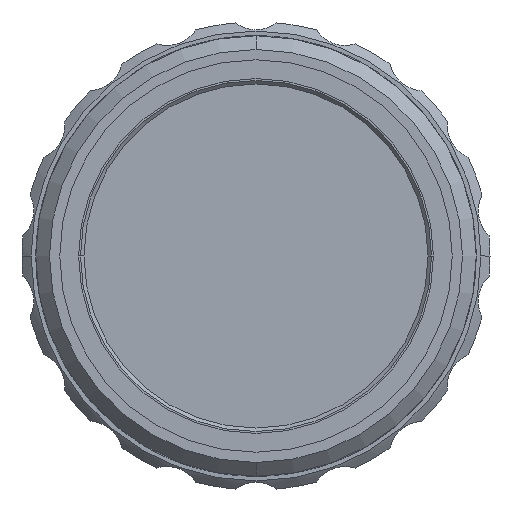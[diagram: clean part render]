
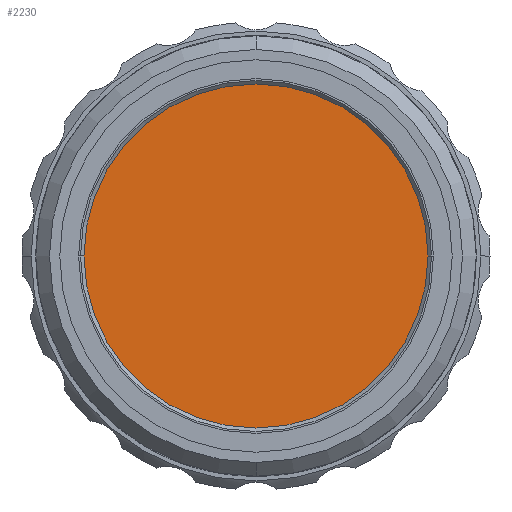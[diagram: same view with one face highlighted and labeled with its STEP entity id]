
A CAD part, front view. The second image highlights one B-rep face of the part: STEP entity #2230.
In plain terms, the highlighted planar face has unit normal (0, -1, 0).
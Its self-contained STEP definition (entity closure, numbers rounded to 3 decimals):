
#129 = CIRCLE ( 'NONE', #11376, 12.5 ) ;
#491 = DIRECTION ( 'NONE',  ( 0., -1., 0. ) ) ;
#1617 = CARTESIAN_POINT ( 'NONE',  ( 0., -53.614, 0. ) ) ;
#1807 = ORIENTED_EDGE ( 'NONE', *, *, #3451, .T. ) ;
#2201 = DIRECTION ( 'NONE',  ( 0., 1., 0. ) ) ;
#2230 = ADVANCED_FACE ( 'NONE', ( #9356 ), #14100, .F. ) ;
#2610 = DIRECTION ( 'NONE',  ( 1., 0., 0. ) ) ;
#2659 = DIRECTION ( 'NONE',  ( 0., -1., 0. ) ) ;
#3243 = CARTESIAN_POINT ( 'NONE',  ( 0., -53.614, 0. ) ) ;
#3451 = EDGE_CURVE ( 'NONE', #4184, #8243, #129, .T. ) ;
#4184 = VERTEX_POINT ( 'NONE', #5961 ) ;
#5602 = CARTESIAN_POINT ( 'NONE',  ( -12.5, -53.614, 0. ) ) ;
#5961 = CARTESIAN_POINT ( 'NONE',  ( 12.5, -53.614, 0. ) ) ;
#6431 = AXIS2_PLACEMENT_3D ( 'NONE', #3243, #2201, #10797 ) ;
#7464 = AXIS2_PLACEMENT_3D ( 'NONE', #1617, #2659, #2610 ) ;
#7570 = EDGE_CURVE ( 'NONE', #8243, #4184, #9826, .T. ) ;
#8243 = VERTEX_POINT ( 'NONE', #5602 ) ;
#8426 = ORIENTED_EDGE ( 'NONE', *, *, #7570, .T. ) ;
#9356 = FACE_OUTER_BOUND ( 'NONE', #13910, .T. ) ;
#9826 = CIRCLE ( 'NONE', #7464, 12.5 ) ;
#10110 = DIRECTION ( 'NONE',  ( 1., 0., 0. ) ) ;
#10207 = CARTESIAN_POINT ( 'NONE',  ( 0., -53.614, 0. ) ) ;
#10797 = DIRECTION ( 'NONE',  ( -1., 0., 0. ) ) ;
#11376 = AXIS2_PLACEMENT_3D ( 'NONE', #10207, #491, #10110 ) ;
#13910 = EDGE_LOOP ( 'NONE', ( #1807, #8426 ) ) ;
#14100 = PLANE ( 'NONE',  #6431 ) ;
